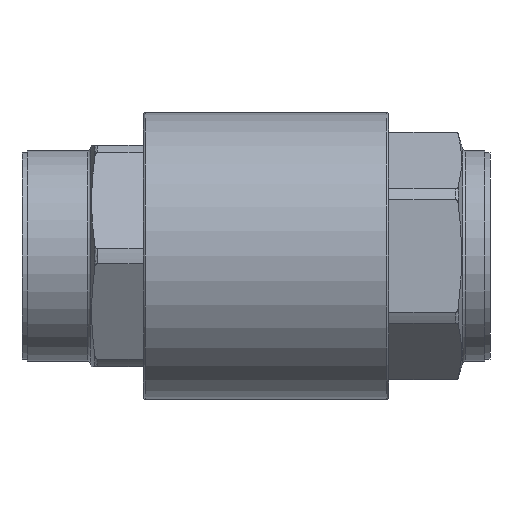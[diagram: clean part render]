
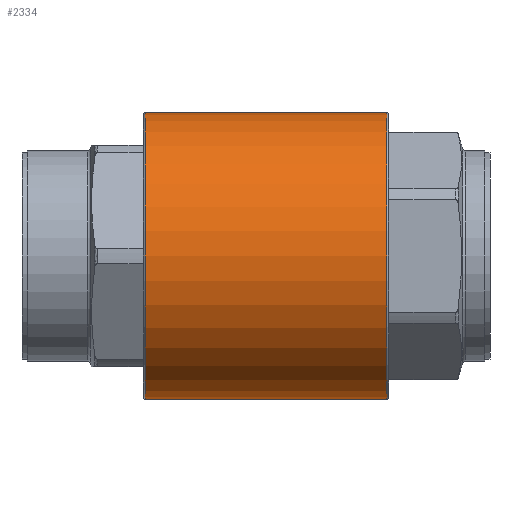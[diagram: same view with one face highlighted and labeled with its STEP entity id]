
A CAD part, front view. The second image highlights one B-rep face of the part: STEP entity #2334.
In plain terms, the highlighted cylindrical face has radius 13.487 mm (diameter 26.975 mm), a partial arc.
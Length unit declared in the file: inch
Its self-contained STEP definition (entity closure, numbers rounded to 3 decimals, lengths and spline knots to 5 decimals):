
#530 = EDGE_CURVE ( 'NONE', #6005, #3801, #7244, .T. ) ;
#765 = AXIS2_PLACEMENT_3D ( 'NONE', #6943, #3154, #7604 ) ;
#854 = EDGE_CURVE ( 'NONE', #1796, #6498, #6060, .T. ) ;
#1065 = CARTESIAN_POINT ( 'NONE',  ( -1.53955, 0., 0. ) ) ;
#1189 = VECTOR ( 'NONE', #3882, 39.37008 ) ;
#1256 = CARTESIAN_POINT ( 'NONE',  ( -1.53955, 0., 0.531 ) ) ;
#1266 = ORIENTED_EDGE ( 'NONE', *, *, #530, .F. ) ;
#1496 = ORIENTED_EDGE ( 'NONE', *, *, #7709, .T. ) ;
#1501 = CIRCLE ( 'NONE', #4329, 0.531 ) ;
#1796 = VERTEX_POINT ( 'NONE', #3210 ) ;
#1802 = CARTESIAN_POINT ( 'NONE',  ( -0.41092, 0., -0.531 ) ) ;
#2217 = EDGE_LOOP ( 'NONE', ( #1266, #1496, #6954, #4198 ) ) ;
#2334 = ADVANCED_FACE ( 'NONE', ( #5736 ), #7028, .T. ) ;
#2395 = CARTESIAN_POINT ( 'NONE',  ( 0.48492, 0., 0. ) ) ;
#3035 = DIRECTION ( 'NONE',  ( 0., 0., 1. ) ) ;
#3154 = DIRECTION ( 'NONE',  ( -1., 0., 0. ) ) ;
#3210 = CARTESIAN_POINT ( 'NONE',  ( 0.48492, 0., 0.531 ) ) ;
#3618 = DIRECTION ( 'NONE',  ( 0., 0., 1. ) ) ;
#3801 = VERTEX_POINT ( 'NONE', #1802 ) ;
#3882 = DIRECTION ( 'NONE',  ( -1., 0., 0. ) ) ;
#3883 = AXIS2_PLACEMENT_3D ( 'NONE', #1065, #6742, #3618 ) ;
#4015 = CARTESIAN_POINT ( 'NONE',  ( 0.48492, 0., -0.531 ) ) ;
#4080 = CIRCLE ( 'NONE', #765, 0.531 ) ;
#4082 = VECTOR ( 'NONE', #7947, 39.37008 ) ;
#4198 = ORIENTED_EDGE ( 'NONE', *, *, #7963, .F. ) ;
#4329 = AXIS2_PLACEMENT_3D ( 'NONE', #2395, #6807, #3035 ) ;
#5613 = CARTESIAN_POINT ( 'NONE',  ( -0.41092, 0., 0.531 ) ) ;
#5736 = FACE_OUTER_BOUND ( 'NONE', #2217, .T. ) ;
#6005 = VERTEX_POINT ( 'NONE', #4015 ) ;
#6060 = LINE ( 'NONE', #1256, #1189 ) ;
#6498 = VERTEX_POINT ( 'NONE', #5613 ) ;
#6742 = DIRECTION ( 'NONE',  ( -1., 0., 0. ) ) ;
#6807 = DIRECTION ( 'NONE',  ( -1., 0., 0. ) ) ;
#6943 = CARTESIAN_POINT ( 'NONE',  ( -0.41092, 0., 0. ) ) ;
#6954 = ORIENTED_EDGE ( 'NONE', *, *, #854, .T. ) ;
#7028 = CYLINDRICAL_SURFACE ( 'NONE', #3883, 0.531 ) ;
#7244 = LINE ( 'NONE', #7302, #4082 ) ;
#7302 = CARTESIAN_POINT ( 'NONE',  ( -1.53955, 0., -0.531 ) ) ;
#7604 = DIRECTION ( 'NONE',  ( 0., 0., 1. ) ) ;
#7709 = EDGE_CURVE ( 'NONE', #6005, #1796, #1501, .T. ) ;
#7947 = DIRECTION ( 'NONE',  ( -1., 0., 0. ) ) ;
#7963 = EDGE_CURVE ( 'NONE', #3801, #6498, #4080, .T. ) ;
